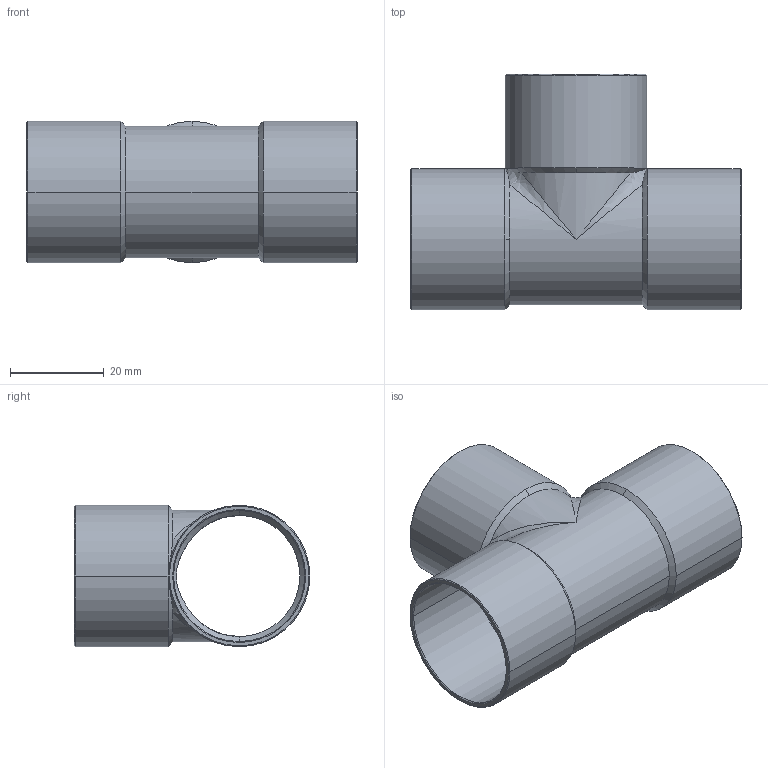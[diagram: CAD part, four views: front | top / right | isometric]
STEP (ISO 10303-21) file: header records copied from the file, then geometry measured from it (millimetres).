
FILE_DESCRIPTION((''),'2;1');
FILE_NAME('P:\Bouwmaten\z-maattekeningen 3D\5000\5130\d\513028.stp','2005-10-19T08:45:32',('Kris'),(''),'Autodesk Inventor 8','Autodesk Inventor 8','');
FILE_SCHEMA(('AUTOMOTIVE_DESIGN { 1 0 10303 214 1 1 1 1 }'));
Length unit declared in the file: millimetre
Products named in the file (1): 513028
Bounding box: 70.5 x 50.35 x 30.2 mm (x, y, z)
Volume: 8757.4 mm3; surface area: 16174.9 mm2
Topology: 1 solids, 1 shells, 51 faces, 142 edges, 84 vertices
Faces by surface type: cone 24, cylinder 20, bspline 4, plane 3
Entity records: 2103 total; most frequent: CARTESIAN_POINT 762, DIRECTION 310, ORIENTED_EDGE 268, AXIS2_PLACEMENT_3D 136, EDGE_CURVE 134, VERTEX_POINT 84, CIRCLE 72, EDGE_LOOP 54
